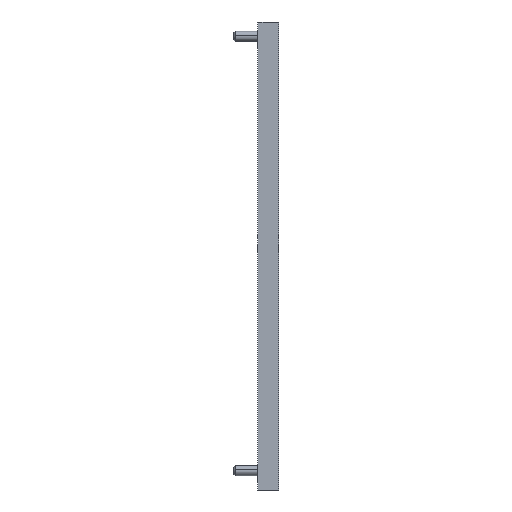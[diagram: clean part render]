
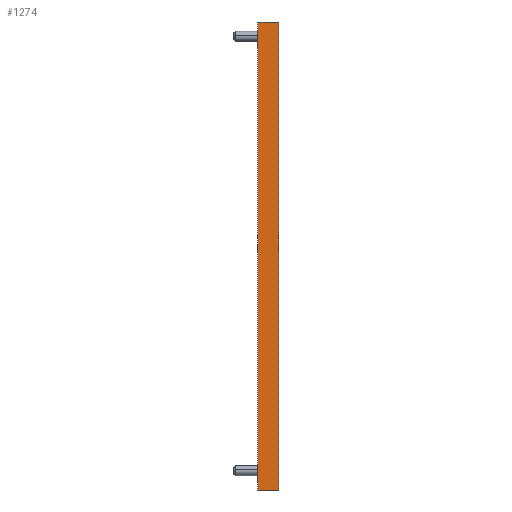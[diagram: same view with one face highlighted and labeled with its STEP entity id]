
A CAD part, left-side view. The second image highlights one B-rep face of the part: STEP entity #1274.
In plain terms, the highlighted planar face has unit normal (-1, 0, 0).
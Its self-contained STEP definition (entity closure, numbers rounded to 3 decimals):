
#200 = VERTEX_POINT ( 'NONE', #1523 ) ;
#279 = EDGE_CURVE ( 'NONE', #1426, #1678, #2518, .T. ) ;
#280 = CARTESIAN_POINT ( 'NONE',  ( -8., 12.5, 479. ) ) ;
#401 = VECTOR ( 'NONE', #3045, 1000. ) ;
#428 = LINE ( 'NONE', #2276, #1153 ) ;
#497 = EDGE_CURVE ( 'NONE', #2729, #1144, #1148, .T. ) ;
#585 = CARTESIAN_POINT ( 'NONE',  ( -8., 0., 200. ) ) ;
#626 = DIRECTION ( 'NONE',  ( -1., 0., 0. ) ) ;
#655 = VECTOR ( 'NONE', #3071, 1000. ) ;
#817 = ORIENTED_EDGE ( 'NONE', *, *, #497, .T. ) ;
#892 = DIRECTION ( 'NONE',  ( 0., 0., 1. ) ) ;
#992 = LINE ( 'NONE', #2380, #655 ) ;
#1004 = VERTEX_POINT ( 'NONE', #280 ) ;
#1062 = CARTESIAN_POINT ( 'NONE',  ( -8., 0., 200. ) ) ;
#1144 = VERTEX_POINT ( 'NONE', #1218 ) ;
#1148 = LINE ( 'NONE', #1847, #401 ) ;
#1153 = VECTOR ( 'NONE', #1627, 1000. ) ;
#1171 = DIRECTION ( 'NONE',  ( 0., 0., 1. ) ) ;
#1218 = CARTESIAN_POINT ( 'NONE',  ( -8., 9.3, 479. ) ) ;
#1274 = ADVANCED_FACE ( 'NONE', ( #2767 ), #2781, .T. ) ;
#1319 = EDGE_CURVE ( 'NONE', #1426, #200, #1926, .T. ) ;
#1380 = ORIENTED_EDGE ( 'NONE', *, *, #2965, .T. ) ;
#1426 = VERTEX_POINT ( 'NONE', #585 ) ;
#1444 = LINE ( 'NONE', #2685, #2467 ) ;
#1466 = CARTESIAN_POINT ( 'NONE',  ( -8., 3.2, 479. ) ) ;
#1523 = CARTESIAN_POINT ( 'NONE',  ( -8., 0., 479. ) ) ;
#1593 = CARTESIAN_POINT ( 'NONE',  ( -8., 0., 479. ) ) ;
#1627 = DIRECTION ( 'NONE',  ( 0., 1., 0. ) ) ;
#1678 = VERTEX_POINT ( 'NONE', #2967 ) ;
#1705 = CARTESIAN_POINT ( 'NONE',  ( -8., 0., 479. ) ) ;
#1847 = CARTESIAN_POINT ( 'NONE',  ( -8., 0., 479. ) ) ;
#1918 = AXIS2_PLACEMENT_3D ( 'NONE', #1593, #626, #892 ) ;
#1926 = LINE ( 'NONE', #1705, #3060 ) ;
#1934 = EDGE_CURVE ( 'NONE', #1678, #1004, #1444, .T. ) ;
#2021 = DIRECTION ( 'NONE',  ( 0., 1., 0. ) ) ;
#2076 = ORIENTED_EDGE ( 'NONE', *, *, #1319, .T. ) ;
#2171 = DIRECTION ( 'NONE',  ( 0., 0., 1. ) ) ;
#2276 = CARTESIAN_POINT ( 'NONE',  ( -8., 0., 479. ) ) ;
#2380 = CARTESIAN_POINT ( 'NONE',  ( -8., 12.5, 479. ) ) ;
#2387 = EDGE_LOOP ( 'NONE', ( #2580, #2076, #1380, #817, #2640, #2471 ) ) ;
#2401 = VECTOR ( 'NONE', #2021, 1000. ) ;
#2467 = VECTOR ( 'NONE', #1171, 1000. ) ;
#2471 = ORIENTED_EDGE ( 'NONE', *, *, #1934, .F. ) ;
#2518 = LINE ( 'NONE', #1062, #2401 ) ;
#2580 = ORIENTED_EDGE ( 'NONE', *, *, #279, .F. ) ;
#2640 = ORIENTED_EDGE ( 'NONE', *, *, #2646, .F. ) ;
#2646 = EDGE_CURVE ( 'NONE', #1004, #1144, #992, .T. ) ;
#2685 = CARTESIAN_POINT ( 'NONE',  ( -8., 12.5, 479. ) ) ;
#2729 = VERTEX_POINT ( 'NONE', #1466 ) ;
#2767 = FACE_OUTER_BOUND ( 'NONE', #2387, .T. ) ;
#2781 = PLANE ( 'NONE',  #1918 ) ;
#2965 = EDGE_CURVE ( 'NONE', #200, #2729, #428, .T. ) ;
#2967 = CARTESIAN_POINT ( 'NONE',  ( -8., 12.5, 200. ) ) ;
#3045 = DIRECTION ( 'NONE',  ( 0., 1., 0. ) ) ;
#3060 = VECTOR ( 'NONE', #2171, 1000. ) ;
#3071 = DIRECTION ( 'NONE',  ( 0., -1., 0. ) ) ;
